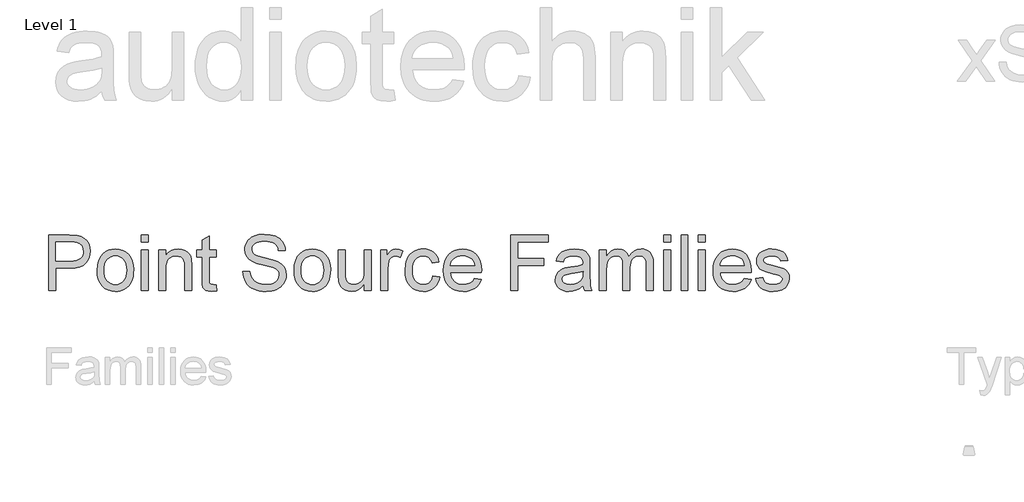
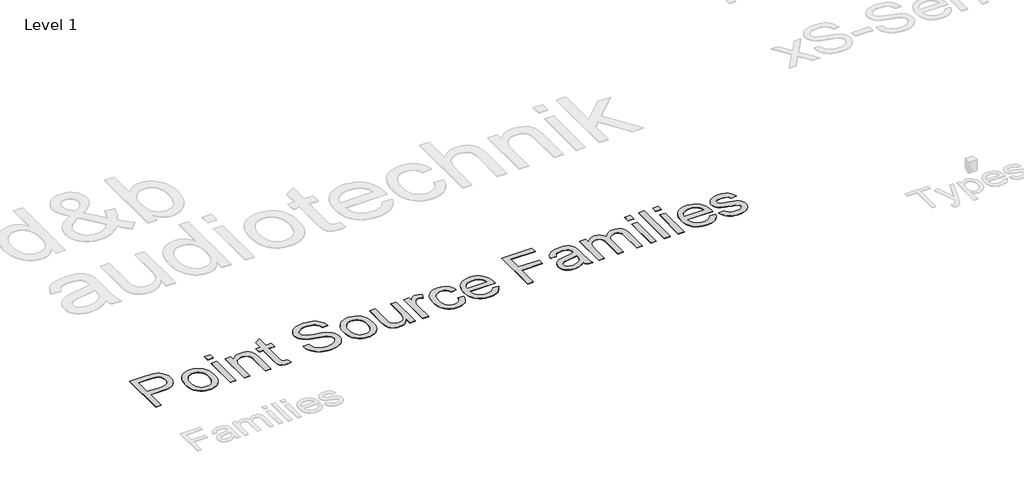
# One storey, part 9 of 12: 1 proxy.
"""IFC4 building model written with IfcOpenShell, lengths in millimetres."""

import ifcopenshell
import ifcopenshell.guid

model = None  # the IFC model being written
_history = None  # IfcOwnerHistory: only IFC2X3 demands one
_inside = {}  # id of a spatial element -> (the spatial element, [elements in it])
_under = {}  # id of a project, library or spatial element -> (it, [spatial elements below it])
_declared = {}  # id of a project -> (the project, [libraries it declares])
_typed = {}  # id of a type object -> (the type object, [elements of that type])
_made_of = {}  # id of a material, layer set ... -> (it, [elements and type objects made of it])


def new_model(schema):
    """Start an empty IFC model of exactly this schema.

    Asked for "IFC4X3", IfcOpenShell would pick the latest addendum, in which some entities
    have other attributes; the version numbers below select the first issue.
    IFC2X3 requires an IfcOwnerHistory on every rooted entity: one is made here for all.
    """
    global model, _history
    if schema == "IFC4X3":
        model = ifcopenshell.file(schema_version=(4, 3, 0, 0))
    else:
        model = ifcopenshell.file(schema=schema)
    _inside.clear()
    _under.clear()
    _declared.clear()
    _typed.clear()
    _made_of.clear()
    _history = None
    if model.schema == "IFC2X3":
        org = make("IfcOrganization", Name="unknown")
        user = make(
            "IfcPersonAndOrganization",
            ThePerson=make("IfcPerson", FamilyName="unknown"),
            TheOrganization=org,
        )
        app = make(
            "IfcApplication",
            ApplicationDeveloper=org,
            Version="unknown",
            ApplicationFullName="unknown",
            ApplicationIdentifier="unknown",
        )
        _history = make(
            "IfcOwnerHistory",
            OwningUser=user,
            OwningApplication=app,
            ChangeAction="ADDED",
            CreationDate=0,
        )
    return model


def make(cls, **values):
    """One entity of the class cls with the attributes given. An attribute that is None is left unset."""
    return model.create_entity(
        cls, **{name: value for name, value in values.items() if value is not None}
    )


def rooted(cls, **values):
    """An entity with a GlobalId (a new one), such as an element, a storey or a relation."""
    return make(cls, GlobalId=ifcopenshell.guid.new(), OwnerHistory=_history, **values)


def si_unit(unit_type, name, prefix=None):
    """IfcSIUnit, for example si_unit("LENGTHUNIT", "METRE", prefix="MILLI")."""
    return make("IfcSIUnit", UnitType=unit_type, Prefix=prefix, Name=name)


def assignment(units):
    """IfcUnitAssignment: the units of a project."""
    return None if units is None else make("IfcUnitAssignment", Units=units)


def point(xyz):
    """IfcCartesianPoint."""
    return None if xyz is None else make("IfcCartesianPoint", Coordinates=xyz)


def direction(xyz):
    """IfcDirection."""
    return None if xyz is None else make("IfcDirection", DirectionRatios=xyz)


def frame(location, z_axis=None, x_axis=None):
    """IfcAxis2Placement3D, a coordinate frame: its origin and axes. An axis left out is left unset."""
    return make(
        "IfcAxis2Placement3D",
        Location=point(location),
        Axis=direction(z_axis),
        RefDirection=direction(x_axis),
    )


def origin():
    """The frame at (0, 0, 0) with its axes left unset."""
    return frame((0.0, 0.0, 0.0))


def origin_with_axes():
    """The frame at (0, 0, 0) with the z axis (0, 0, 1) and the x axis (1, 0, 0) written out."""
    return frame((0.0, 0.0, 0.0), z_axis=(0.0, 0.0, 1.0), x_axis=(1.0, 0.0, 0.0))


def place(relative_to, where):
    """IfcLocalPlacement: puts the frame where relative to a parent placement (None: the world)."""
    return make(
        "IfcLocalPlacement", PlacementRelTo=relative_to, RelativePlacement=where
    )


def context(
    kind, dimensions, precision=None, world=None, true_north=None, identifier=None
):
    """IfcGeometricRepresentationContext, for example the 3D "Model" context."""
    return make(
        "IfcGeometricRepresentationContext",
        ContextIdentifier=identifier,
        ContextType=kind,
        CoordinateSpaceDimension=dimensions,
        Precision=precision,
        WorldCoordinateSystem=world,
        TrueNorth=true_north,
    )


def project(units=None, contexts=None):
    """IfcProject with its units and contexts."""
    return rooted(
        "IfcProject",
        Name="project",
        RepresentationContexts=contexts,
        UnitsInContext=assignment(units),
    )


def spatial(cls, under=None, at=None, **own):
    """A site, building, storey or space (cls), placed at a placement, below another one or the project."""
    s = rooted(cls, ObjectPlacement=at, **own)
    if under is not None:
        _under.setdefault(under.id(), (under, []))[1].append(s)
    return s


def polyline(points):
    """IfcPolyline through the points."""
    return make("IfcPolyline", Points=[point(p) for p in points])


def outline(outer, holes=None, kind="AREA"):
    """IfcArbitraryClosedProfileDef: a profile drawn as a closed curve; with holes, ...WithVoids."""
    if holes is None:
        return make("IfcArbitraryClosedProfileDef", ProfileType=kind, OuterCurve=outer)
    return make(
        "IfcArbitraryProfileDefWithVoids",
        ProfileType=kind,
        OuterCurve=outer,
        InnerCurves=holes,
    )


def extrude(swept, where, along, depth):
    """IfcExtrudedAreaSolid: the profile swept, set in the frame where, extruded along a direction by depth."""
    return make(
        "IfcExtrudedAreaSolid",
        SweptArea=swept,
        Position=where,
        ExtrudedDirection=direction(along),
        Depth=depth,
    )


def shape(context_of_items, identifier, shape_type, items):
    """IfcShapeRepresentation: the items that make up one representation, for example the "Body"."""
    return make(
        "IfcShapeRepresentation",
        ContextOfItems=context_of_items,
        RepresentationIdentifier=identifier,
        RepresentationType=shape_type,
        Items=items,
    )


def made_of(thing, what):
    """Note that an element or type object is made of a material, layer set ...; save() writes the relation."""
    if what is not None:
        _made_of.setdefault(what.id(), (what, []))[1].append(thing)
    return thing


def element(
    cls,
    number,
    at=None,
    inside=None,
    cuts=None,
    type_object=None,
    material=None,
    context=None,
    identifier="Body",
    shape_type=None,
    held_by="IfcProductDefinitionShape",
    body=None,
    shapes=None,
    **own,
):
    """One element of the class cls, such as IfcWall. Its Tag is "e" and its number.

    at: its placement. inside: the storey or other place that contains it. cuts: it is an
    opening in that element (IfcRelVoidsElement). A single representation is given by context,
    identifier, shape_type and body (its items); several are given by shapes. held_by: the class
    of the entity that holds the representations. save() writes the other relations.
    """
    e = rooted(cls, Tag="e%d" % number, ObjectPlacement=at, **own)
    if body is not None:
        shapes = [shape(context, identifier, shape_type, body)]
    if shapes is not None:
        e.Representation = make(held_by, Representations=shapes)
    if inside is not None:
        _inside.setdefault(inside.id(), (inside, []))[1].append(e)
    if cuts is not None:
        rooted(
            "IfcRelVoidsElement", RelatingBuildingElement=cuts, RelatedOpeningElement=e
        )
    if type_object is not None:
        _typed.setdefault(type_object.id(), (type_object, []))[1].append(e)
    return made_of(e, material)


def aggregate(whole, parts):
    """IfcRelAggregates: a whole, such as a stair, and the parts it consists of."""
    return rooted("IfcRelAggregates", RelatingObject=whole, RelatedObjects=parts)


def save(model, path):
    """Write the relations noted so far, then the file.

    IfcRelAggregates (storeys below a building ...), IfcRelContainedInSpatialStructure (elements
    in a storey), IfcRelDefinesByType, IfcRelAssociatesMaterial and IfcRelDeclares: one each for
    every whole, place, type object, material and project.
    """
    for whole, parts in _under.values():
        aggregate(whole, parts)
    for where, things in _inside.values():
        rooted(
            "IfcRelContainedInSpatialStructure",
            RelatedElements=things,
            RelatingStructure=where,
        )
    for kind, things in _typed.values():
        rooted("IfcRelDefinesByType", RelatedObjects=things, RelatingType=kind)
    for what, things in _made_of.values():
        rooted("IfcRelAssociatesMaterial", RelatedObjects=things, RelatingMaterial=what)
    for by, libraries in _declared.values():
        rooted("IfcRelDeclares", RelatingContext=by, RelatedDefinitions=libraries)
    model.write(path)


model = new_model("IFC4")

# Units and contexts
model_context = context("Model", 3, world=origin())
ifc_project = project(units=[si_unit("LENGTHUNIT", "METRE", prefix="MILLI")], contexts=[model_context])

# Site, building, storey
site = spatial("IfcSite", under=ifc_project)
building = spatial("IfcBuilding", under=site)
storey = spatial("IfcBuildingStorey", under=building, Name="Level 1", Elevation=0.0)

# Proxy
placement = place(None, origin())
element("IfcBuildingElementProxy", 1, Name="600mm Arial", ObjectType="600mm Arial", at=placement, inside=storey, context=model_context, shape_type="SweptSolid", body=[
    extrude(outline(polyline([(-21034.9539913, 18351.3054836), (-21034.9539913, 18942.0747143), (-20816.0116836, 18942.0747143), (-20765.0261067, 18940.6684643), (-20727.7424528, 18936.4497143), (-20688.3854817, 18925.938897), (-20655.9876451, 18908.829522), (-20629.8999047, 18884.346349), (-20609.473222, 18851.7141374), (-20596.2761067, 18813.2225509), (-20591.8770682, 18771.1612528), (-20594.8473206, 18734.8962288), (-20603.7580778, 18701.533849), (-20618.6093398, 18671.0741134), (-20639.4011067, 18643.517022), (-20667.9452773, 18620.674474), (-20706.0537509, 18604.3583682), (-20753.7265273, 18594.5687047), (-20810.9636067, 18591.3054836), (-20961.1078374, 18591.3054836), (-20961.1078374, 18351.3054836), (-21034.9539913, 18351.3054836)]), holes=[polyline([(-20961.1078374, 18665.1516374), (-20806.6366836, 18665.1516374), (-20771.1198567, 18666.846349), (-20741.1559143, 18671.9304836), (-20716.7448567, 18680.4040413), (-20697.8866836, 18692.267022), (-20683.8151692, 18707.2039211), (-20673.7640874, 18724.8992336), (-20667.7334384, 18745.3529595), (-20665.723222, 18768.565099), (-20670.4648086, 18801.7381759), (-20684.6895682, 18829.7189451), (-20706.630674, 18850.7766374), (-20734.521299, 18863.1804836), (-20763.0068759, 18866.9665413), (-20808.3674528, 18868.2285605), (-20961.1078374, 18868.2285605), (-20961.1078374, 18665.1516374)])]), origin_with_axes(), (0.0, 0.0, 1.0), 5.0),
    extrude(outline(polyline([(-20518.0309143, 18568.2285605), (-20514.0375249, 18624.4154595), (-20502.0573567, 18672.8319259), (-20482.0904095, 18713.4779595), (-20454.1366836, 18746.3535605), (-20425.9936547, 18767.3661807), (-20394.9299528, 18782.3751951), (-20360.9455778, 18791.3806038), (-20324.0405297, 18794.3824066), (-20283.2998446, 18790.7270581), (-20246.4624047, 18779.7610124), (-20213.52821, 18761.4842696), (-20184.4972605, 18735.8968297), (-20160.8028494, 18703.8640773), (-20143.8782701, 18666.251397), (-20133.7235225, 18623.0587889), (-20130.3386067, 18574.2862528), (-20131.8350009, 18534.7580076), (-20136.3241836, 18499.6828874), (-20143.8061547, 18469.0608922), (-20154.2809143, 18442.892022), (-20167.6177533, 18420.2883562), (-20183.6859624, 18400.361974), (-20202.4855417, 18383.1128754), (-20224.0164913, 18368.5410605), (-20247.4404696, 18356.9620341), (-20271.9191355, 18348.6913009), (-20297.4524889, 18343.728861), (-20324.0405297, 18342.0747143), (-20365.3761667, 18345.7165413), (-20402.5561547, 18356.642022), (-20435.5804937, 18374.8511566), (-20464.4491836, 18400.3439451), (-20487.8911908, 18432.6876951), (-20504.6354817, 18471.4497143), (-20514.6820562, 18516.6300028), (-20518.0309143, 18568.2285605)]), holes=[polyline([(-20444.1847605, 18568.3727913), (-20442.0483422, 18532.5539812), (-20435.6390874, 18501.5398586), (-20424.9569961, 18475.3304235), (-20410.0020682, 18453.9256759), (-20391.8109624, 18437.2985725), (-20371.4203374, 18425.4220701), (-20348.8301932, 18418.2961687), (-20324.0405297, 18415.9208682), (-20299.3770682, 18418.3096903), (-20276.8770682, 18425.4761566), (-20256.5405297, 18437.4202672), (-20238.3674528, 18454.142022), (-20223.4125249, 18475.7586086), (-20212.7304336, 18502.3872143), (-20206.3211788, 18534.0278393), (-20204.1847605, 18570.6804836), (-20206.3347004, 18605.3634764), (-20212.7845201, 18635.5663009), (-20223.5342196, 18661.2889571), (-20238.583799, 18682.5314451), (-20256.8244841, 18699.1585485), (-20277.1475009, 18711.0350509), (-20299.5528494, 18718.1609523), (-20324.0405297, 18720.5362528), (-20348.8301932, 18718.1699667), (-20371.4203374, 18711.0711086), (-20391.8109624, 18699.2396783), (-20410.0020682, 18682.6756759), (-20424.9569961, 18661.3340292), (-20435.6390874, 18635.1696663), (-20442.0483422, 18604.1825869), (-20444.1847605, 18568.3727913)])]), origin_with_axes(), (0.0, 0.0, 1.0), 5.0),
    extrude(outline(polyline([(-20047.2616836, 18868.2285605), (-20047.2616836, 18942.0747143), (-19973.4155297, 18942.0747143), (-19973.4155297, 18868.2285605), (-20047.2616836, 18868.2285605)])), origin_with_axes(), (0.0, 0.0, 1.0), 5.0),
    extrude(outline(polyline([(-20047.2616836, 18351.3054836), (-20047.2616836, 18785.1516374), (-19973.4155297, 18785.1516374), (-19973.4155297, 18351.3054836), (-20047.2616836, 18351.3054836)])), origin_with_axes(), (0.0, 0.0, 1.0), 5.0),
    extrude(outline(polyline([(-19862.646299, 18351.3054836), (-19862.646299, 18785.1516374), (-19788.8001451, 18785.1516374), (-19788.8001451, 18724.5747143), (-19763.145097, 18755.1155797), (-19732.333799, 18776.9304836), (-19696.3662509, 18790.0194259), (-19655.2424528, 18794.3824066), (-19618.8422124, 18790.8667816), (-19585.5068759, 18780.3199066), (-19557.7063951, 18764.0578874), (-19537.910722, 18743.3968297), (-19524.4792317, 18718.3908201), (-19515.771299, 18689.0939451), (-19511.8770682, 18617.6997143), (-19511.8770682, 18351.3054836), (-19585.723222, 18351.3054836), (-19585.723222, 18607.7477913), (-19587.8506259, 18645.9328874), (-19594.2328374, 18673.0843297), (-19606.005674, 18692.5374547), (-19624.3049528, 18707.627599), (-19647.7604817, 18717.3090893), (-19675.0020682, 18720.5362528), (-19697.4254456, 18718.7243538), (-19718.2532701, 18713.2886566), (-19737.4855417, 18704.2291615), (-19755.1222605, 18691.5458682), (-19769.856335, 18673.7964691), (-19780.380674, 18649.5386566), (-19786.6952773, 18618.7724307), (-19788.8001451, 18581.4977913), (-19788.8001451, 18351.3054836), (-19862.646299, 18351.3054836)])), origin_with_axes(), (0.0, 0.0, 1.0), 5.0),
    extrude(outline(polyline([(-19253.4155297, 18412.892022), (-19244.1847605, 18349.142022), (-19299.4251451, 18342.0747143), (-19334.8698567, 18345.1396182), (-19361.3001451, 18354.3343297), (-19379.9780297, 18368.5050028), (-19392.1655297, 18386.4977913), (-19398.8722605, 18417.3992336), (-19401.1078374, 18470.2958682), (-19401.1078374, 18711.3054836), (-19456.4924528, 18711.3054836), (-19456.4924528, 18785.1516374), (-19401.1078374, 18785.1516374), (-19401.1078374, 18890.5843297), (-19327.2616836, 18933.9977913), (-19327.2616836, 18785.1516374), (-19253.4155297, 18785.1516374), (-19253.4155297, 18711.3054836), (-19327.2616836, 18711.3054836), (-19327.2616836, 18472.4593297), (-19323.3674528, 18434.3824066), (-19310.7472605, 18420.8968297), (-19300.0922124, 18417.1648586), (-19285.5789913, 18415.9208682), (-19253.4155297, 18412.892022)])), origin_with_axes(), (0.0, 0.0, 1.0), 5.0),
    extrude(outline(polyline([(-18967.2616836, 18554.3824066), (-18893.4155297, 18554.3824066), (-18884.941972, 18513.4028393), (-18869.6174528, 18480.4641374), (-18845.7112028, 18454.3223105), (-18811.4924528, 18433.7333682), (-18769.6655297, 18420.3739932), (-18722.9347605, 18415.9208682), (-18681.7929336, 18419.2922624), (-18645.771299, 18429.4064451), (-18616.582597, 18445.4160605), (-18595.9395682, 18466.4737528), (-18583.661924, 18490.6504355), (-18579.5693759, 18516.017022), (-18582.6342797, 18540.7345701), (-18591.8289913, 18562.0987528), (-18610.5068759, 18580.3259163), (-18642.021299, 18595.6324066), (-18749.5453374, 18623.829522), (-18820.1282701, 18642.4893778), (-18865.2905297, 18660.2477913), (-18902.051347, 18685.0915413), (-18928.1030297, 18715.1997143), (-18943.6258663, 18749.923272), (-18948.8001451, 18788.6131759), (-18947.200085, 18810.603861), (-18942.3999047, 18831.8643778), (-18934.3996042, 18852.3947264), (-18923.1991836, 18872.1949066), (-18908.9248446, 18890.4581278), (-18891.7027893, 18906.377599), (-18871.5330177, 18919.9533201), (-18848.4155297, 18931.1852913), (-18796.4563951, 18946.2754355), (-18738.9443759, 18951.3054836), (-18676.6366836, 18946.0410605), (-18622.1174528, 18930.2477913), (-18598.2652893, 18918.4839691), (-18577.333799, 18904.2501951), (-18559.3229817, 18887.5464691), (-18544.2328374, 18868.3727913), (-18532.1805538, 18847.2880557), (-18523.2833182, 18824.8511566), (-18517.5411307, 18801.0620941), (-18514.9539913, 18775.9208682), (-18588.8001451, 18775.9208682), (-18593.740049, 18799.4845701), (-18602.3578374, 18819.9833682), (-18614.6535105, 18837.4172624), (-18630.6270682, 18851.7862528), (-18650.5759865, 18863.018224), (-18674.7977413, 18871.0410605), (-18703.2923326, 18875.8547624), (-18736.0597605, 18877.4593297), (-18769.8728615, 18875.8727913), (-18798.7640874, 18871.1131759), (-18822.7334384, 18863.1804836), (-18841.7809143, 18852.0747143), (-18856.2941355, 18838.7243538), (-18866.660722, 18824.0578874), (-18872.880674, 18808.0753153), (-18874.9539913, 18790.7766374), (-18869.0765874, 18762.3992336), (-18851.4443759, 18739.5747143), (-18835.254472, 18729.424474), (-18809.7616836, 18719.1660605), (-18730.8674528, 18698.3247143), (-18649.4491836, 18678.5290413), (-18600.1943759, 18661.2574066), (-18558.0970201, 18634.4665413), (-18541.8214792, 18618.7183441), (-18528.7280297, 18601.4016374), (-18518.6634264, 18582.6065653), (-18511.474424, 18562.423272), (-18505.723222, 18517.892022), (-18507.3773687, 18494.7925629), (-18512.3398086, 18472.3691855), (-18520.6105417, 18450.6218898), (-18532.1895682, 18429.5506759), (-18546.8740634, 18409.971349), (-18564.4612028, 18392.6997143), (-18584.9509865, 18377.735772), (-18608.3434143, 18365.079522), (-18633.9578975, 18355.0149187), (-18661.113847, 18347.8259163), (-18720.0501451, 18342.0747143), (-18757.825085, 18343.6251951), (-18792.3999047, 18348.2766374), (-18823.7746042, 18356.0290413), (-18851.9491836, 18366.8824066), (-18877.0949167, 18380.8547624), (-18899.3830778, 18397.9641374), (-18918.8136667, 18418.2105316), (-18935.3866836, 18441.5939451), (-18948.7370442, 18467.3571663), (-18958.4996643, 18494.7429836), (-18964.6745442, 18523.751397), (-18967.2616836, 18554.3824066)])), origin_with_axes(), (0.0, 0.0, 1.0), 5.0),
    extrude(outline(polyline([(-18422.646299, 18568.2285605), (-18418.6529095, 18624.4154595), (-18406.6727413, 18672.8319259), (-18386.7057942, 18713.4779595), (-18358.7520682, 18746.3535605), (-18330.6090393, 18767.3661807), (-18299.5453374, 18782.3751951), (-18265.5609624, 18791.3806038), (-18228.6559143, 18794.3824066), (-18187.9152292, 18790.7270581), (-18151.0777893, 18779.7610124), (-18118.1435946, 18761.4842696), (-18089.1126451, 18735.8968297), (-18065.4182341, 18703.8640773), (-18048.4936547, 18666.251397), (-18038.3389071, 18623.0587889), (-18034.9539913, 18574.2862528), (-18036.4503855, 18534.7580076), (-18040.9395682, 18499.6828874), (-18048.4215393, 18469.0608922), (-18058.896299, 18442.892022), (-18072.2331379, 18420.2883562), (-18088.301347, 18400.361974), (-18107.1009264, 18383.1128754), (-18128.6318759, 18368.5410605), (-18152.0558542, 18356.9620341), (-18176.5345201, 18348.6913009), (-18202.0678735, 18343.728861), (-18228.6559143, 18342.0747143), (-18269.9915514, 18345.7165413), (-18307.1715393, 18356.642022), (-18340.1958783, 18374.8511566), (-18369.0645682, 18400.3439451), (-18392.5065754, 18432.6876951), (-18409.2508663, 18471.4497143), (-18419.2974408, 18516.6300028), (-18422.646299, 18568.2285605)]), holes=[polyline([(-18348.8001451, 18568.3727913), (-18346.6637268, 18532.5539812), (-18340.254472, 18501.5398586), (-18329.5723807, 18475.3304235), (-18314.6174528, 18453.9256759), (-18296.426347, 18437.2985725), (-18276.035722, 18425.4220701), (-18253.4455778, 18418.2961687), (-18228.6559143, 18415.9208682), (-18203.9924528, 18418.3096903), (-18181.4924528, 18425.4761566), (-18161.1559143, 18437.4202672), (-18142.9828374, 18454.142022), (-18128.0279095, 18475.7586086), (-18117.3458182, 18502.3872143), (-18110.9365634, 18534.0278393), (-18108.8001451, 18570.6804836), (-18110.950085, 18605.3634764), (-18117.3999047, 18635.5663009), (-18128.1496042, 18661.2889571), (-18143.1991836, 18682.5314451), (-18161.4398687, 18699.1585485), (-18181.7628855, 18711.0350509), (-18204.1682341, 18718.1609523), (-18228.6559143, 18720.5362528), (-18253.4455778, 18718.1699667), (-18276.035722, 18711.0711086), (-18296.426347, 18699.2396783), (-18314.6174528, 18682.6756759), (-18329.5723807, 18661.3340292), (-18340.254472, 18635.1696663), (-18346.6637268, 18604.1825869), (-18348.8001451, 18568.3727913)])]), origin_with_axes(), (0.0, 0.0, 1.0), 5.0),
    extrude(outline(polyline([(-17674.9539913, 18351.3054836), (-17674.9539913, 18425.8727913), (-17701.6727413, 18389.2111326), (-17732.7905297, 18363.0242336), (-17768.3073567, 18347.3120941), (-17808.223222, 18342.0747143), (-17844.1907701, 18345.752599), (-17877.6703374, 18356.7862528), (-17905.7592797, 18373.3727913), (-17925.5549528, 18393.7093297), (-17938.8782701, 18418.408849), (-17947.5501451, 18448.0843297), (-17951.8770682, 18516.7381759), (-17951.8770682, 18785.1516374), (-17878.0309143, 18785.1516374), (-17878.0309143, 18551.4977913), (-17876.9131259, 18504.767022), (-17873.5597605, 18476.2093297), (-17862.7965393, 18451.095147), (-17844.3530297, 18432.002599), (-17819.4551932, 18419.9413009), (-17789.3289913, 18415.9208682), (-17757.4720201, 18420.0314451), (-17727.6703374, 18432.3631759), (-17703.0970201, 18451.7802432), (-17686.9251451, 18477.1468297), (-17677.9467797, 18511.8884163), (-17674.9539913, 18559.4304836), (-17674.9539913, 18785.1516374), (-17601.1078374, 18785.1516374), (-17601.1078374, 18351.3054836), (-17674.9539913, 18351.3054836)])), origin_with_axes(), (0.0, 0.0, 1.0), 5.0),
    extrude(outline(polyline([(-17499.5693759, 18351.3054836), (-17499.5693759, 18785.1516374), (-17434.9539913, 18785.1516374), (-17434.9539913, 18720.9689451), (-17411.083799, 18758.1804836), (-17389.0886067, 18780.1035605), (-17367.021299, 18790.8126951), (-17342.9347605, 18794.3824066), (-17306.1559143, 18788.6852913), (-17268.8001451, 18771.5939451), (-17293.4636067, 18705.392022), (-17319.4251451, 18716.7501951), (-17345.3866836, 18720.5362528), (-17367.4359624, 18716.8944259), (-17387.1414913, 18705.9689451), (-17403.0609624, 18688.5891374), (-17413.7520682, 18665.5843297), (-17422.7304336, 18624.3343297), (-17425.723222, 18579.3343297), (-17425.723222, 18351.3054836), (-17499.5693759, 18351.3054836)])), origin_with_axes(), (0.0, 0.0, 1.0), 5.0),
    extrude(outline(polyline([(-16945.723222, 18508.2285605), (-16871.8770682, 18498.9977913), (-16879.9089192, 18464.1525389), (-16892.4660105, 18433.3187047), (-16909.5483422, 18406.4962889), (-16931.1559143, 18383.6852913), (-16956.3782701, 18365.4806639), (-16984.3049528, 18352.4773586), (-17014.9359624, 18344.6753754), (-17048.271299, 18342.0747143), (-17089.6880658, 18345.7030196), (-17126.8229817, 18356.5879355), (-17159.6760466, 18374.7294619), (-17188.2472605, 18400.127599), (-17211.3737629, 18432.3045821), (-17227.8926932, 18470.782647), (-17237.8040514, 18515.5617937), (-17241.1078374, 18566.642022), (-17235.4648086, 18632.3571663), (-17228.4110225, 18661.9289812), (-17218.535722, 18689.3102913), (-17205.771299, 18713.9512167), (-17190.0501451, 18735.3018778), (-17171.3722605, 18753.3622744), (-17149.7376451, 18768.1324066), (-17126.1243639, 18779.6167816), (-17101.5104817, 18787.8199066), (-17075.8959985, 18792.7417816), (-17049.2809143, 18794.3824066), (-17016.5179937, 18792.1288009), (-16986.8830778, 18785.3679836), (-16960.3761667, 18774.0999547), (-16936.9972605, 18758.3247143), (-16917.1429937, 18738.4028393), (-16901.2100009, 18714.6949066), (-16889.1982821, 18687.2009163), (-16881.1078374, 18655.9208682), (-16954.9539913, 18646.690099), (-16968.349424, 18678.907647), (-16989.208799, 18702.002599), (-17016.3782701, 18715.9028393), (-17048.7039913, 18720.5362528), (-17073.7956379, 18718.2556038), (-17096.426347, 18711.4136566), (-17116.5961187, 18700.0104115), (-17134.3049528, 18684.0458682), (-17148.7235225, 18663.1504355), (-17159.0225009, 18636.954522), (-17165.2018879, 18605.4581278), (-17167.2616836, 18568.6612528), (-17165.24696, 18531.3099908), (-17159.2027893, 18499.4485124), (-17149.1291716, 18473.0768177), (-17135.0261067, 18452.1949066), (-17117.668835, 18436.3250148), (-17097.832597, 18424.9893778), (-17075.5173927, 18418.1879956), (-17050.723222, 18415.9208682), (-17012.4840393, 18421.5819259), (-16995.9470802, 18428.658248), (-16981.1318759, 18438.565099), (-16968.4530898, 18451.4106518), (-16958.3253855, 18467.3030797), (-16950.7487629, 18486.2423826), (-16945.723222, 18508.2285605)])), origin_with_axes(), (0.0, 0.0, 1.0), 5.0),
    extrude(outline(polyline([(-16503.5116836, 18480.5362528), (-16431.1078374, 18471.3054836), (-16442.2090994, 18442.3060845), (-16457.1955778, 18416.7501951), (-16476.0672725, 18394.6378153), (-16498.8241836, 18375.9689451), (-16525.231936, 18361.1402191), (-16555.0561547, 18350.548272), (-16588.2968398, 18344.1931038), (-16624.9539913, 18342.0747143), (-16670.7743038, 18345.7300629), (-16711.6006259, 18356.6961086), (-16747.4329576, 18374.9728514), (-16778.271299, 18400.5602913), (-16803.0699768, 18432.7462889), (-16820.7833182, 18470.8187047), (-16831.411323, 18514.7775389), (-16834.9539913, 18564.6227913), (-16831.3752653, 18616.158248), (-16820.6390874, 18661.5819259), (-16802.7454576, 18700.8938249), (-16777.6943759, 18734.0939451), (-16746.9371643, 18760.470147), (-16711.9251451, 18779.3102913), (-16672.6583182, 18790.6143778), (-16629.1366836, 18794.3824066), (-16587.0167917, 18790.6233922), (-16548.926347, 18779.346349), (-16514.8653494, 18760.5512768), (-16484.833799, 18734.2381759), (-16460.3190754, 18701.1101711), (-16442.8085586, 18661.8703874), (-16432.3022485, 18616.5188249), (-16428.8001451, 18565.0554836), (-16429.2328374, 18545.1516374), (-16761.1078374, 18545.1516374), (-16756.8304937, 18515.6834884), (-16748.3253855, 18489.8751951), (-16735.5925129, 18467.7267576), (-16718.6318759, 18449.2381759), (-16698.3809744, 18434.6618538), (-16675.7773086, 18424.2501951), (-16650.8208783, 18418.0031999), (-16623.5116836, 18415.9208682), (-16584.208799, 18419.7790413), (-16551.1078374, 18431.3535605), (-16524.208799, 18451.3655797), (-16503.5116836, 18480.5362528)]), holes=[polyline([(-16761.1078374, 18618.9977913), (-16502.646299, 18618.9977913), (-16512.6342797, 18658.0122143), (-16521.2250249, 18673.3547624), (-16532.2136067, 18685.9208682), (-16552.3518278, 18701.065099), (-16575.2664913, 18711.8824066), (-16600.957597, 18718.3727913), (-16629.4251451, 18720.5362528), (-16655.3911908, 18718.8099908), (-16679.2027893, 18713.6312047), (-16700.8599408, 18704.9998946), (-16720.3626451, 18692.9160605), (-16736.7283302, 18677.9385966), (-16748.974424, 18660.626397), (-16757.1009264, 18640.9794619), (-16761.1078374, 18618.9977913)])]), origin_with_axes(), (0.0, 0.0, 1.0), 5.0),
    extrude(outline(polyline([(-16114.9539913, 18351.3054836), (-16114.9539913, 18942.0747143), (-15718.0309143, 18942.0747143), (-15718.0309143, 18868.2285605), (-16041.1078374, 18868.2285605), (-16041.1078374, 18692.8439451), (-15764.1847605, 18692.8439451), (-15764.1847605, 18618.9977913), (-16041.1078374, 18618.9977913), (-16041.1078374, 18351.3054836), (-16114.9539913, 18351.3054836)])), origin_with_axes(), (0.0, 0.0, 1.0), 5.0),
    extrude(outline(polyline([(-15348.8001451, 18406.690099), (-15384.082597, 18376.4376951), (-15420.410722, 18356.642022), (-15458.613847, 18345.7165413), (-15499.521299, 18342.0747143), (-15532.4014071, 18344.2652191), (-15561.2340393, 18350.8367336), (-15586.0191956, 18361.7892576), (-15606.7568759, 18377.1227913), (-15623.1315754, 18395.8637768), (-15634.8277893, 18417.0386566), (-15641.8455177, 18440.6474307), (-15644.1847605, 18466.690099), (-15640.6511067, 18497.3030797), (-15630.0501451, 18525.1035605), (-15613.6979817, 18548.9016374), (-15592.910722, 18567.5074066), (-15568.4816355, 18581.5699066), (-15541.2039913, 18591.7381759), (-15477.3097605, 18602.8439451), (-15401.8049528, 18614.5266374), (-15349.2328374, 18628.2285605), (-15348.8001451, 18644.6708682), (-15353.8842797, 18677.627599), (-15360.239448, 18689.8331278), (-15369.1366836, 18699.190099), (-15384.5152893, 18708.5290413), (-15403.2472605, 18715.1997143), (-15450.771299, 18720.5362528), (-15494.7616836, 18716.9845701), (-15525.4828374, 18706.329522), (-15546.4323567, 18686.6239932), (-15561.1078374, 18655.9208682), (-15634.9539913, 18665.1516374), (-15622.1354817, 18705.5362528), (-15603.0068759, 18737.267022), (-15575.7833182, 18761.533849), (-15538.6799528, 18779.5266374), (-15493.301347, 18790.6684643), (-15441.2520682, 18794.3824066), (-15391.3301932, 18791.1011566), (-15351.7568759, 18781.2574066), (-15321.9191355, 18766.455724), (-15301.2039913, 18748.3006759), (-15287.4660105, 18725.8547624), (-15278.5597605, 18698.1804836), (-15274.9539913, 18633.565099), (-15274.9539913, 18541.690099), (-15271.2039913, 18413.3968297), (-15265.6511067, 18381.6840893), (-15256.4924528, 18351.3054836), (-15330.3386067, 18351.3054836), (-15342.1655297, 18376.9785605), (-15348.8001451, 18406.690099)]), holes=[polyline([(-15348.8001451, 18554.3824066), (-15398.4155297, 18542.0867336), (-15467.9347605, 18531.7381759), (-15531.4684143, 18519.767022), (-15548.0008663, 18511.5819259), (-15560.2424528, 18500.2958682), (-15567.8145682, 18486.7742336), (-15570.3386067, 18471.8824066), (-15564.8398086, 18449.923272), (-15548.3434143, 18431.9304836), (-15521.2100009, 18419.923272), (-15483.8001451, 18415.9208682), (-15444.1366836, 18420.3379355), (-15409.0886067, 18433.5891374), (-15380.6751451, 18453.1143778), (-15360.9155297, 18476.3535605), (-15352.1535105, 18500.2958682), (-15349.2328374, 18533.4689451), (-15348.8001451, 18554.3824066)])]), origin_with_axes(), (0.0, 0.0, 1.0), 5.0),
    extrude(outline(polyline([(-15173.4155297, 18351.3054836), (-15173.4155297, 18785.1516374), (-15099.5693759, 18785.1516374), (-15099.5693759, 18713.7574066), (-15077.3578374, 18746.5518778), (-15048.8001451, 18772.2429836), (-15014.8698567, 18788.8475509), (-14976.5405297, 18794.3824066), (-14935.4708182, 18788.7393778), (-14917.9918518, 18781.6855917), (-14902.5501451, 18771.8102913), (-14877.958799, 18744.7129355), (-14861.8770682, 18708.565099), (-14834.9600009, 18746.1101711), (-14804.2568759, 18772.9280797), (-14769.7676932, 18789.0188249), (-14731.4924528, 18794.3824066), (-14701.9296523, 18792.1513369), (-14675.9816355, 18785.4581278), (-14653.6484023, 18774.3027792), (-14634.9299528, 18758.6852913), (-14620.1327773, 18738.4253754), (-14609.5633663, 18713.3427432), (-14603.2217196, 18683.4373946), (-14601.1078374, 18648.7093297), (-14601.1078374, 18351.3054836), (-14674.9539913, 18351.3054836), (-14674.9539913, 18616.9785605), (-14676.6667317, 18653.8114932), (-14681.8049528, 18678.6372143), (-14691.4323567, 18695.6384163), (-14706.6126451, 18708.9977913), (-14726.1378855, 18717.6516374), (-14748.8001451, 18720.5362528), (-14769.7271283, 18718.6882961), (-14788.8061547, 18713.1444259), (-14806.0372244, 18703.9046422), (-14821.4203374, 18690.9689451), (-14834.0720802, 18673.9587288), (-14843.1090393, 18652.4953874), (-14848.5312148, 18626.5789211), (-14850.3386067, 18596.2093297), (-14850.3386067, 18351.3054836), (-14924.1847605, 18351.3054836), (-14924.1847605, 18625.1997143), (-14928.457597, 18666.954522), (-14941.2761067, 18696.7381759), (-14951.1874648, 18707.1498345), (-14963.8301932, 18714.5867336), (-14979.2042917, 18719.048873), (-14997.3097605, 18720.5362528), (-15025.7592797, 18716.5699066), (-15051.973222, 18704.6708682), (-15073.6078374, 18685.127599), (-15088.3193759, 18658.2285605), (-15096.7568759, 18620.908849), (-15099.5693759, 18570.1035605), (-15099.5693759, 18351.3054836), (-15173.4155297, 18351.3054836)])), origin_with_axes(), (0.0, 0.0, 1.0), 5.0),
    extrude(outline(polyline([(-14490.3386067, 18868.2285605), (-14490.3386067, 18942.0747143), (-14416.4924528, 18942.0747143), (-14416.4924528, 18868.2285605), (-14490.3386067, 18868.2285605)])), origin_with_axes(), (0.0, 0.0, 1.0), 5.0),
    extrude(outline(polyline([(-14490.3386067, 18351.3054836), (-14490.3386067, 18785.1516374), (-14416.4924528, 18785.1516374), (-14416.4924528, 18351.3054836), (-14490.3386067, 18351.3054836)])), origin_with_axes(), (0.0, 0.0, 1.0), 5.0),
    extrude(outline(polyline([(-14305.723222, 18351.3054836), (-14305.723222, 18942.0747143), (-14231.8770682, 18942.0747143), (-14231.8770682, 18351.3054836), (-14305.723222, 18351.3054836)])), origin_with_axes(), (0.0, 0.0, 1.0), 5.0),
    extrude(outline(polyline([(-14121.1078374, 18351.3054836), (-14121.1078374, 18785.1516374), (-14047.2616836, 18785.1516374), (-14047.2616836, 18351.3054836), (-14121.1078374, 18351.3054836)])), origin_with_axes(), (0.0, 0.0, 1.0), 5.0),
    extrude(outline(polyline([(-14121.1078374, 18868.2285605), (-14121.1078374, 18942.0747143), (-14047.2616836, 18942.0747143), (-14047.2616836, 18868.2285605), (-14121.1078374, 18868.2285605)])), origin_with_axes(), (0.0, 0.0, 1.0), 5.0),
    extrude(outline(polyline([(-13632.7424528, 18480.5362528), (-13560.3386067, 18471.3054836), (-13571.4398687, 18442.3060845), (-13586.426347, 18416.7501951), (-13605.2980417, 18394.6378153), (-13628.0549528, 18375.9689451), (-13654.4627052, 18361.1402191), (-13684.286924, 18350.548272), (-13717.5276091, 18344.1931038), (-13754.1847605, 18342.0747143), (-13800.005073, 18345.7300629), (-13840.8313951, 18356.6961086), (-13876.6637268, 18374.9728514), (-13907.5020682, 18400.5602913), (-13932.3007461, 18432.7462889), (-13950.0140874, 18470.8187047), (-13960.6420922, 18514.7775389), (-13964.1847605, 18564.6227913), (-13960.6060345, 18616.158248), (-13949.8698567, 18661.5819259), (-13931.9762268, 18700.8938249), (-13906.9251451, 18734.0939451), (-13876.1679336, 18760.470147), (-13841.1559143, 18779.3102913), (-13801.8890874, 18790.6143778), (-13758.3674528, 18794.3824066), (-13716.247561, 18790.6233922), (-13678.1571163, 18779.346349), (-13644.0961187, 18760.5512768), (-13614.0645682, 18734.2381759), (-13589.5498446, 18701.1101711), (-13572.0393278, 18661.8703874), (-13561.5330177, 18616.5188249), (-13558.0309143, 18565.0554836), (-13558.4636067, 18545.1516374), (-13890.3386067, 18545.1516374), (-13886.0612629, 18515.6834884), (-13877.5561547, 18489.8751951), (-13864.8232821, 18467.7267576), (-13847.8626451, 18449.2381759), (-13827.6117437, 18434.6618538), (-13805.0080778, 18424.2501951), (-13780.0516475, 18418.0031999), (-13752.7424528, 18415.9208682), (-13713.4395682, 18419.7790413), (-13680.3386067, 18431.3535605), (-13653.4395682, 18451.3655797), (-13632.7424528, 18480.5362528)]), holes=[polyline([(-13890.3386067, 18618.9977913), (-13631.8770682, 18618.9977913), (-13641.865049, 18658.0122143), (-13650.4557942, 18673.3547624), (-13661.4443759, 18685.9208682), (-13681.582597, 18701.065099), (-13704.4972605, 18711.8824066), (-13730.1883663, 18718.3727913), (-13758.6559143, 18720.5362528), (-13784.62196, 18718.8099908), (-13808.4335586, 18713.6312047), (-13830.09071, 18704.9998946), (-13849.5934143, 18692.9160605), (-13865.9590994, 18677.9385966), (-13878.2051932, 18660.626397), (-13886.3316956, 18640.9794619), (-13890.3386067, 18618.9977913)])]), origin_with_axes(), (0.0, 0.0, 1.0), 5.0),
    extrude(outline(polyline([(-13511.8770682, 18480.5362528), (-13438.0309143, 18489.767022), (-13433.5687749, 18472.9280797), (-13426.3842797, 18458.1804836), (-13416.4774288, 18445.5242336), (-13403.848222, 18434.9593297), (-13388.4606018, 18426.6300028), (-13370.2785105, 18420.6804836), (-13325.5309143, 18415.9208682), (-13281.3241836, 18420.283849), (-13264.1426932, 18425.7375749), (-13250.2424528, 18433.3727913), (-13231.8530297, 18452.3391374), (-13225.723222, 18474.3343297), (-13227.2646884, 18484.3042816), (-13231.8890874, 18493.1564451), (-13250.3866836, 18507.5074066), (-13278.0429336, 18516.8824066), (-13326.396299, 18528.565099), (-13393.7881259, 18548.0542816), (-13437.598222, 18564.6949066), (-13465.7412509, 18582.8499547), (-13486.1318759, 18606.8824066), (-13498.5176932, 18635.2598105), (-13502.646299, 18666.4497143), (-13499.3289913, 18695.0614932), (-13489.3770682, 18721.4737528), (-13473.691972, 18744.6408201), (-13453.1751451, 18763.517022), (-13432.7845201, 18775.3980316), (-13406.2280297, 18785.3679836), (-13375.5249047, 18792.1288009), (-13342.6943759, 18794.3824066), (-13294.629472, 18790.7586086), (-13252.8386067, 18779.8872143), (-13219.2328374, 18762.8319259), (-13195.723222, 18740.6564451), (-13180.146299, 18711.720147), (-13170.3386067, 18674.3824066), (-13244.1847605, 18665.1516374), (-13253.505674, 18688.3908201), (-13271.9491836, 18705.8968297), (-13299.6955778, 18716.876397), (-13336.9251451, 18720.5362528), (-13379.3289913, 18717.0386566), (-13407.598222, 18706.5458682), (-13423.4996643, 18691.4016374), (-13428.8001451, 18673.9497143), (-13426.6006259, 18662.5915413), (-13420.0020682, 18652.4593297), (-13408.7160105, 18643.408849), (-13392.4539913, 18636.1612528), (-13328.848222, 18620.440099), (-13220.458799, 18585.6804836), (-13191.8289913, 18569.0578874), (-13170.1222605, 18546.3054836), (-13156.4383663, 18517.3511566), (-13151.8770682, 18482.1227913), (-13157.2316355, 18445.704522), (-13173.2953374, 18411.4497143), (-13199.4551932, 18382.0446663), (-13235.098222, 18360.1756759), (-13278.1511067, 18346.5999547), (-13326.5405297, 18342.0747143), (-13366.2851211, 18344.2562047), (-13400.9996643, 18350.8006759), (-13430.6841595, 18361.7081278), (-13455.3386067, 18376.9785605), (-13475.4768278, 18396.5398586), (-13491.6126451, 18420.3199066), (-13503.7460586, 18448.3187047), (-13511.8770682, 18480.5362528)])), origin_with_axes(), (0.0, 0.0, 1.0), 5.0),
])

save(model, "model.ifc")
